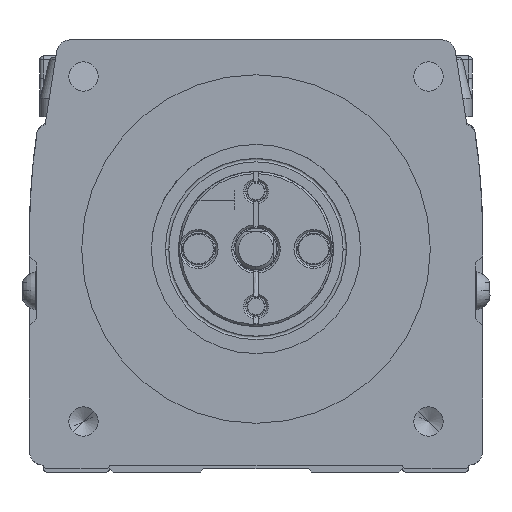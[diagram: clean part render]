
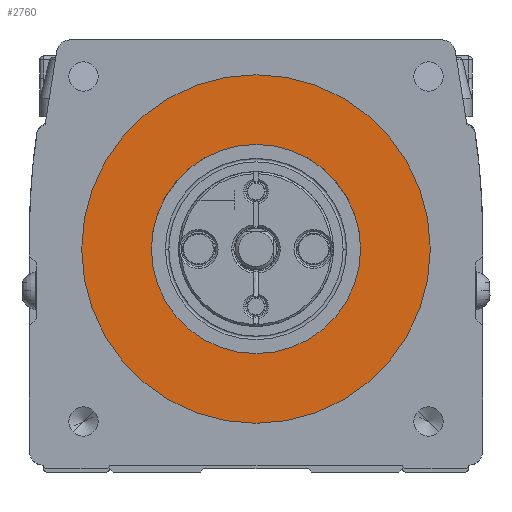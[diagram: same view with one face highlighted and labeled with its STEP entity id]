
A CAD part, left-side view. The second image highlights one B-rep face of the part: STEP entity #2760.
In plain terms, the highlighted planar face has unit normal (-1, 0, 0).
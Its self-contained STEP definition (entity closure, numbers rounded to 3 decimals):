
#2760=ADVANCED_FACE('',(#5026,#5027),#5028,.F.);
#5026=FACE_BOUND('',#9772,.T.);
#5027=FACE_OUTER_BOUND('',#9773,.T.);
#5028=PLANE('',#9774);
#9772=EDGE_LOOP('',(#16753,#16754));
#9773=EDGE_LOOP('',(#16755,#16756));
#9774=AXIS2_PLACEMENT_3D('',#16757,#16758,#16759);
#16753=ORIENTED_EDGE('',*,*,#34517,.T.);
#16754=ORIENTED_EDGE('',*,*,#34615,.T.);
#16755=ORIENTED_EDGE('',*,*,#34648,.T.);
#16756=ORIENTED_EDGE('',*,*,#34509,.T.);
#16757=CARTESIAN_POINT('',(-76.5,0.,0.));
#16758=DIRECTION('',(1.0,0.,0.));
#16759=DIRECTION('',(0.,1.0,0.));
#34509=EDGE_CURVE('',#40332,#40329,#40333,.T.);
#34517=EDGE_CURVE('',#40346,#40343,#40347,.T.);
#34615=EDGE_CURVE('',#40343,#40346,#40508,.T.);
#34648=EDGE_CURVE('',#40329,#40332,#40565,.T.);
#40329=VERTEX_POINT('',#49953);
#40332=VERTEX_POINT('',#49957);
#40333=CIRCLE('',#49958,25.0);
#40343=VERTEX_POINT('',#49993);
#40346=VERTEX_POINT('',#49997);
#40347=CIRCLE('',#49998,15.0);
#40508=CIRCLE('',#50280,15.0);
#40565=CIRCLE('',#50416,25.0);
#49953=CARTESIAN_POINT('',(-76.5,25.,0.));
#49957=CARTESIAN_POINT('',(-76.5,-25.,0.));
#49958=AXIS2_PLACEMENT_3D('',#64817,#64818,#64819);
#49993=CARTESIAN_POINT('',(-76.5,15.0,0.));
#49997=CARTESIAN_POINT('',(-76.5,-15.,0.));
#49998=AXIS2_PLACEMENT_3D('',#64827,#64828,#64829);
#50280=AXIS2_PLACEMENT_3D('',#64987,#64988,#64989);
#50416=AXIS2_PLACEMENT_3D('',#65044,#65045,#65046);
#64817=CARTESIAN_POINT('',(-76.5,0.,0.));
#64818=DIRECTION('',(-1.0,0.,0.));
#64819=DIRECTION('',(0.,1.0,0.));
#64827=CARTESIAN_POINT('',(-76.5,0.,0.));
#64828=DIRECTION('',(1.0,0.,0.));
#64829=DIRECTION('',(0.,1.0,0.));
#64987=CARTESIAN_POINT('',(-76.5,0.,0.));
#64988=DIRECTION('',(1.0,0.,0.));
#64989=DIRECTION('',(0.,1.0,0.));
#65044=CARTESIAN_POINT('',(-76.5,0.,0.));
#65045=DIRECTION('',(-1.0,0.,0.));
#65046=DIRECTION('',(0.,1.0,0.));
